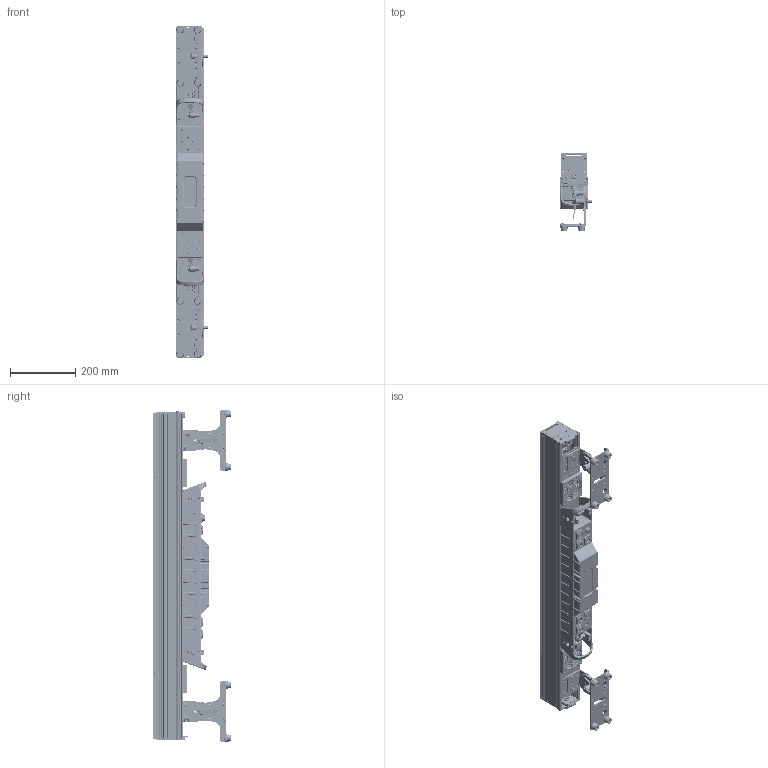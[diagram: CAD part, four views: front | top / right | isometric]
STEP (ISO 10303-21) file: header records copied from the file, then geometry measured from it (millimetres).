
FILE_DESCRIPTION((''),'2;1');
FILE_NAME('IP1825BW-00_ASM_85_ASM','2024-08-05T',('admin'),(''),'PRO/ENGINEER BY PARAMETRIC TECHNOLOGY CORPORATION, 2014320','PRO/ENGINEER BY PARAMETRIC TECHNOLOGY CORPORATION, 2014320','');
FILE_SCHEMA(('CONFIG_CONTROL_DESIGN'));
Products named in the file (65): IP500BW-A1-01_108; PG4-M6X6_1; IP500BW-BL-992_6; IP500BW-A1-04_23; IP500BW-01-04_49; MANIFOLD_SOLID_BREP_122965; MANIFOLD_SOLID_BREP_124126; FAN-80X15_9_ASM; IP500BW-01-05_10; FAN-01_ASM_19_ASM; IP1000-A2-03_5; IP1000-A2-02_5; GD1000-BL-01_2; POWER-SI-01_4; PCB_ASM_2_ASM; RJ45-SE8FDYH-62-B-NS_2; PULG-SAC3MPX_2; JACK-IN-J3F2C-W-B_2; PUSE_2; JACK-OUT-K3F2C-W-B_2; 00003_ASM_3_ASM; LUCK-03_3; MANIFOLD_SOLID_BREP_91_1; MANIFOLD_SOLID_BREP_92_4; LUCK-200_ASM_2_ASM; ASM0001_ASM_10_ASM; IP500BW-A1-02_55; IP1825-SI-01_5; ASM0008_ASM_13_ASM; IP500BW-A1-03_52; M10_GB1007_1; ASM0009_ASM_8_ASM; IP1825-01-06_23; MANIFOLD_SOLID_BREP_340357; MANIFOLD_SOLID_BREP_340520; MANIFOLD_SOLID_BREP_340811; MANIFOLD_SOLID_BREP_341102; IP1825-01-01_38_ASM; MANIFOLD_SOLID_BREP_344357; MANIFOLD_SOLID_BREP_344519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
Assembly tree (121 placements, depth 5):
  IP1825BW-00_ASM_85_ASM
    IP500BW-A1-01_108
    PG4-M6X6_1  x2
    IP500BW-BL-992_6
    IP500BW-A1-04_23  x2
    FAN-01_ASM_19_ASM  x2
      IP500BW-01-04_49
      FAN-80X15_9_ASM
        MANIFOLD_SOLID_BREP_122965
        MANIFOLD_SOLID_BREP_124126
      IP500BW-01-05_10
    ASM0001_ASM_10_ASM
      IP1000-A2-03_5
      00003_ASM_3_ASM
        IP1000-A2-02_5
        PCB_ASM_2_ASM
          GD1000-BL-01_2
          POWER-SI-01_4
        RJ45-SE8FDYH-62-B-NS_2  x2
        PULG-SAC3MPX_2  x2
        JACK-IN-J3F2C-W-B_2
        PUSE_2
        JACK-OUT-K3F2C-W-B_2
      LUCK-03_3  x2
      LUCK-200_ASM_2_ASM  x2
        MANIFOLD_SOLID_BREP_91_1
        MANIFOLD_SOLID_BREP_92_4
    ASM0008_ASM_13_ASM
      IP500BW-A1-02_55
      IP1825-SI-01_5
      LUCK-200_ASM_2_ASM
        MANIFOLD_SOLID_BREP_91_1
        MANIFOLD_SOLID_BREP_92_4
    ASM0009_ASM_8_ASM
      IP500BW-A1-03_52
      LUCK-03_3
      M10_GB1007_1
    IP1825-01-06_23  x2
    ASM0006_ASM_32_ASM  x2
      IP1825-01-01_38_ASM
        MANIFOLD_SOLID_BREP_340357
        MANIFOLD_SOLID_BREP_340520
        MANIFOLD_SOLID_BREP_340811
        MANIFOLD_SOLID_BREP_341102
      IP1825-01-02_27_ASM
        MANIFOLD_SOLID_BREP_344357
        MANIFOLD_SOLID_BREP_344519
        MANIFOLD_SOLID_BREP_344681
        MANIFOLD_SOLID_BREP_344843
        MANIFOLD_SOLID_BREP_345005
      7BASHOU_3
      JIJIAO-4_2
      IP1825-01-05_19_ASM
        MANIFOLD_SOLID_BREP_347778
        MANIFOLD_SOLID_BREP_347941
        MANIFOLD_SOLID_BREP_348104
        MANIFOLD_SOLID_BREP_348267
        MANIFOLD_SOLID_BREP_348430
        MANIFOLD_SOLID_BREP_348593
        MANIFOLD_SOLID_BREP_348756
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Bounding box: 98 x 239.5 x 1016 mm (x, y, z)
Volume: 3522563.5 mm3; surface area: 2424869.8 mm2
Topology: 134 solids, 134 shells, 11762 faces, 34324 edges, 22947 vertices
Faces by surface type: cylinder 5601, plane 3774, cone 829, bspline 785, torus 674, sphere 99
Entity records: 369379 total; most frequent: CARTESIAN_POINT 142486, ORIENTED_EDGE 50554, DIRECTION 44948, EDGE_CURVE 25277, AXIS2_PLACEMENT_3D 17565, VERTEX_POINT 17158, VECTOR 9818, LINE 9818
